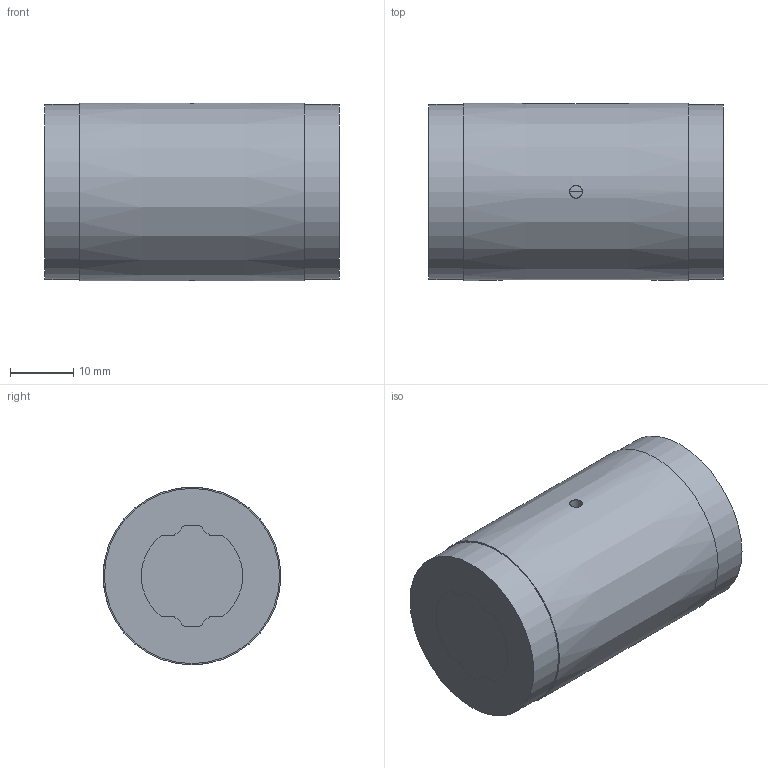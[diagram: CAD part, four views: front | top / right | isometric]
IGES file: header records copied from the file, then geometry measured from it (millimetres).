
Start section: Data from Parasolid IGES Translator 26.0.171, Copyright(c) 2006 Siemens PLM Software. All Rights Reserved.
Global section: file name: LT16X+46.4L(00).igs; native system: By Siemens PLM Incorporated; preprocessor: XPlus GENERIC/IGES 26.0.171; author: Noname; organization: Noname; date: 20240528.070800; units: millimetre
Bounding box: 46.4 x 28 x 28 mm (x, y, z)
Surface area: 10251.2 mm2 (no closed solid volume)
Topology: 0 solids, 0 shells, 66 faces, 362 edges, 356 vertices
Faces by surface type: revolution 41, extrusion 25
